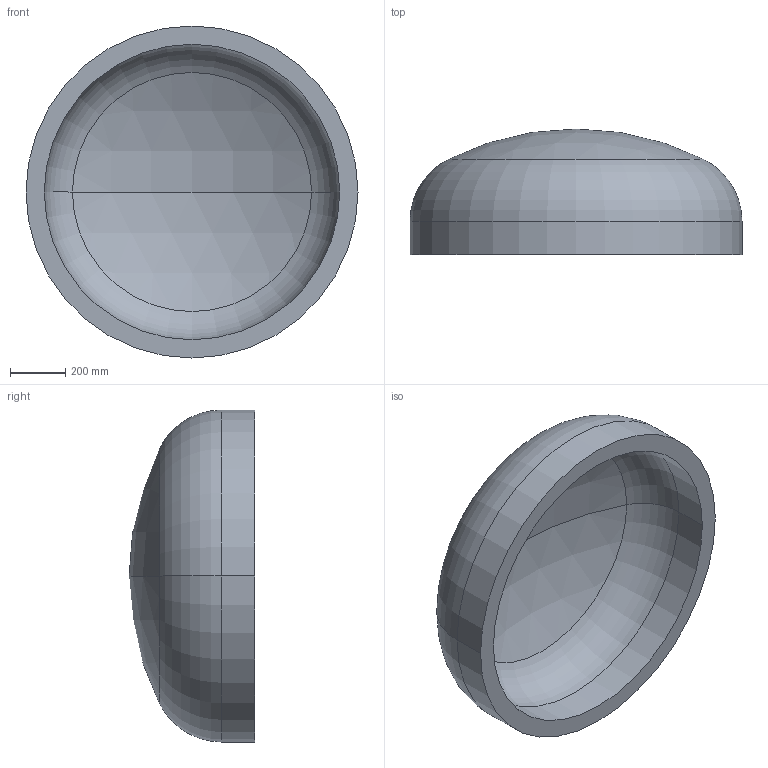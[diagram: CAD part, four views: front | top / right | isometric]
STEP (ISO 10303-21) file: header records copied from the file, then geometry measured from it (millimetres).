
FILE_DESCRIPTION (( 'STEP AP203' ), '1' );
FILE_NAME ('DIN 28013 Korbbogenform_-_Boden DIN 28013 - 1200 x 120 - I - s=66.step', '2016-07-01T09:33:08', ( '' ), ( '' ), 'SwSTEP 2.0', 'SolidWorks 2013', '' );
FILE_SCHEMA (( 'CONFIG_CONTROL_DESIGN' ));
Length unit declared in the file: millimetre
Products named in the file (1): DIN 28013 Korbbogenform_-_Boden DIN 28013 - 1200 x 120 - I - s=66
Bounding box: 1200 x 454.03 x 1200 mm (x, y, z)
Volume: 124591324.1 mm3; surface area: 4019746.4 mm2
Topology: 1 solids, 1 shells, 13 faces, 24 edges, 14 vertices
Faces by surface type: torus 4, cylinder 4, sphere 4, plane 1
Entity records: 407 total; most frequent: DIRECTION 72, CARTESIAN_POINT 52, ORIENTED_EDGE 48, AXIS2_PLACEMENT_3D 34, EDGE_CURVE 24, CIRCLE 20, EDGE_LOOP 14, VERTEX_POINT 14
